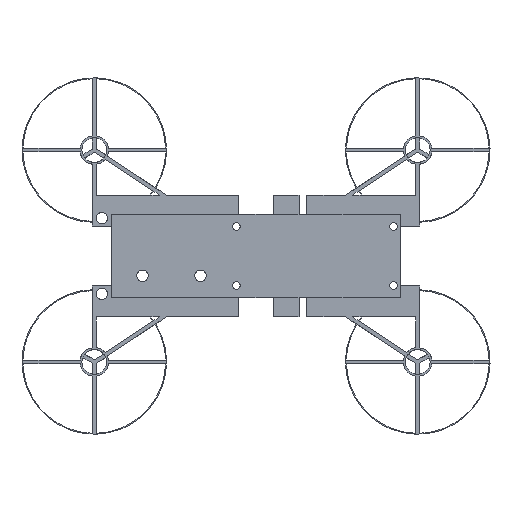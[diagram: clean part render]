
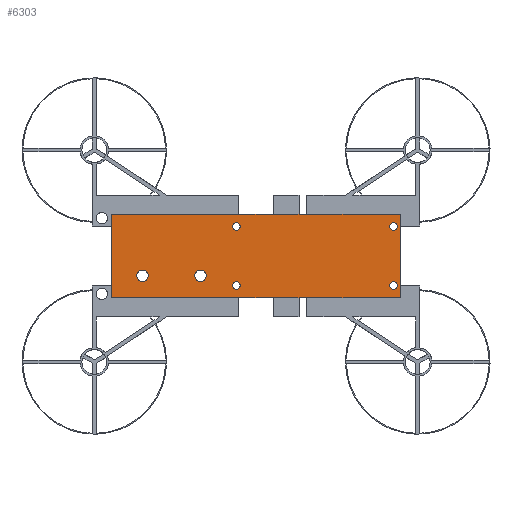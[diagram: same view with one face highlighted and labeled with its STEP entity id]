
A CAD part, top view. The second image highlights one B-rep face of the part: STEP entity #6303.
In plain terms, the highlighted planar face has unit normal (0, 0, 1).
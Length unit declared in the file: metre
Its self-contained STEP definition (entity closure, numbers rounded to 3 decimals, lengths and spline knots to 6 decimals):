
#247=CIRCLE('',#6778,0.0015);
#248=CIRCLE('',#6779,0.0015);
#249=CIRCLE('',#6780,0.001);
#250=CIRCLE('',#6781,0.001);
#251=CIRCLE('',#6782,0.001);
#252=CIRCLE('',#6783,0.001);
#964=ORIENTED_EDGE('',*,*,#2765,.F.);
#965=ORIENTED_EDGE('',*,*,#2766,.F.);
#966=ORIENTED_EDGE('',*,*,#2767,.T.);
#967=ORIENTED_EDGE('',*,*,#2768,.T.);
#968=ORIENTED_EDGE('',*,*,#2769,.T.);
#969=ORIENTED_EDGE('',*,*,#2770,.T.);
#970=ORIENTED_EDGE('',*,*,#2676,.T.);
#971=ORIENTED_EDGE('',*,*,#2684,.T.);
#972=ORIENTED_EDGE('',*,*,#2700,.T.);
#973=ORIENTED_EDGE('',*,*,#2497,.F.);
#974=ORIENTED_EDGE('',*,*,#2771,.F.);
#975=ORIENTED_EDGE('',*,*,#2493,.F.);
#976=ORIENTED_EDGE('',*,*,#2772,.F.);
#977=ORIENTED_EDGE('',*,*,#2698,.F.);
#978=ORIENTED_EDGE('',*,*,#2696,.F.);
#979=ORIENTED_EDGE('',*,*,#2681,.F.);
#980=ORIENTED_EDGE('',*,*,#2664,.F.);
#981=ORIENTED_EDGE('',*,*,#2678,.T.);
#982=ORIENTED_EDGE('',*,*,#2773,.T.);
#983=ORIENTED_EDGE('',*,*,#2402,.T.);
#984=ORIENTED_EDGE('',*,*,#2774,.T.);
#985=ORIENTED_EDGE('',*,*,#2398,.T.);
#2398=EDGE_CURVE('',#3353,#3354,#3939,.T.);
#2402=EDGE_CURVE('',#3357,#3355,#3943,.T.);
#2493=EDGE_CURVE('',#3444,#3446,#4001,.T.);
#2497=EDGE_CURVE('',#3448,#3450,#4005,.T.);
#2664=EDGE_CURVE('',#3571,#3572,#4128,.T.);
#2676=EDGE_CURVE('',#3354,#3575,#4140,.T.);
#2678=EDGE_CURVE('',#3571,#3576,#4142,.T.);
#2681=EDGE_CURVE('',#3572,#3577,#4145,.T.);
#2684=EDGE_CURVE('',#3575,#3579,#4148,.T.);
#2696=EDGE_CURVE('',#3577,#3584,#4160,.T.);
#2698=EDGE_CURVE('',#3584,#3585,#4162,.T.);
#2700=EDGE_CURVE('',#3579,#3450,#4164,.T.);
#2765=EDGE_CURVE('',#3638,#3638,#247,.T.);
#2766=EDGE_CURVE('',#3639,#3639,#248,.T.);
#2767=EDGE_CURVE('',#3640,#3640,#249,.F.);
#2768=EDGE_CURVE('',#3641,#3641,#250,.F.);
#2769=EDGE_CURVE('',#3642,#3642,#251,.F.);
#2770=EDGE_CURVE('',#3643,#3643,#252,.F.);
#2771=EDGE_CURVE('',#3446,#3448,#4198,.T.);
#2772=EDGE_CURVE('',#3585,#3444,#4199,.T.);
#2773=EDGE_CURVE('',#3576,#3357,#4200,.T.);
#2774=EDGE_CURVE('',#3355,#3353,#4201,.T.);
#3353=VERTEX_POINT('',#9267);
#3354=VERTEX_POINT('',#9268);
#3355=VERTEX_POINT('',#9273);
#3357=VERTEX_POINT('',#9276);
#3444=VERTEX_POINT('',#9458);
#3446=VERTEX_POINT('',#9461);
#3448=VERTEX_POINT('',#9467);
#3450=VERTEX_POINT('',#9470);
#3571=VERTEX_POINT('',#9791);
#3572=VERTEX_POINT('',#9793);
#3575=VERTEX_POINT('',#9810);
#3576=VERTEX_POINT('',#9816);
#3577=VERTEX_POINT('',#9823);
#3579=VERTEX_POINT('',#9829);
#3584=VERTEX_POINT('',#9851);
#3585=VERTEX_POINT('',#9855);
#3638=VERTEX_POINT('',#9980);
#3639=VERTEX_POINT('',#9982);
#3640=VERTEX_POINT('',#9984);
#3641=VERTEX_POINT('',#9986);
#3642=VERTEX_POINT('',#9988);
#3643=VERTEX_POINT('',#9990);
#3939=LINE('',#9266,#4611);
#3943=LINE('',#9275,#4615);
#4001=LINE('',#9460,#4673);
#4005=LINE('',#9469,#4677);
#4128=LINE('',#9792,#4800);
#4140=LINE('',#9813,#4812);
#4142=LINE('',#9817,#4814);
#4145=LINE('',#9822,#4817);
#4148=LINE('',#9828,#4820);
#4160=LINE('',#9850,#4832);
#4162=LINE('',#9854,#4834);
#4164=LINE('',#9858,#4836);
#4198=LINE('',#9991,#4870);
#4199=LINE('',#9992,#4871);
#4200=LINE('',#9993,#4872);
#4201=LINE('',#9994,#4873);
#4611=VECTOR('',#7320,1.);
#4615=VECTOR('',#7326,1.);
#4673=VECTOR('',#7460,1.);
#4677=VECTOR('',#7466,1.);
#4800=VECTOR('',#7745,1.);
#4812=VECTOR('',#7767,1.);
#4814=VECTOR('',#7771,1.);
#4817=VECTOR('',#7778,1.);
#4820=VECTOR('',#7783,1.);
#4832=VECTOR('',#7805,1.);
#4834=VECTOR('',#7809,1.);
#4836=VECTOR('',#7813,1.);
#4870=VECTOR('',#7929,1.);
#4871=VECTOR('',#7930,1.);
#4872=VECTOR('',#7931,1.);
#4873=VECTOR('',#7932,1.);
#5333=EDGE_LOOP('',(#964));
#5334=EDGE_LOOP('',(#965));
#5335=EDGE_LOOP('',(#966));
#5336=EDGE_LOOP('',(#967));
#5337=EDGE_LOOP('',(#968));
#5338=EDGE_LOOP('',(#969));
#5339=EDGE_LOOP('',(#970,#971,#972,#973,#974,#975,#976,#977,#978,#979,#980,
#981,#982,#983,#984,#985));
#5727=FACE_BOUND('',#5333,.T.);
#5728=FACE_BOUND('',#5334,.T.);
#5729=FACE_BOUND('',#5335,.T.);
#5730=FACE_BOUND('',#5336,.T.);
#5731=FACE_BOUND('',#5337,.T.);
#5732=FACE_BOUND('',#5338,.T.);
#5733=FACE_BOUND('',#5339,.T.);
#6069=PLANE('',#6777);
#6303=ADVANCED_FACE('',(#5727,#5728,#5729,#5730,#5731,#5732,#5733),#6069,
 .T.);
#6777=AXIS2_PLACEMENT_3D('',#9978,#7915,#7916);
#6778=AXIS2_PLACEMENT_3D('',#9979,#7917,#7918);
#6779=AXIS2_PLACEMENT_3D('',#9981,#7919,#7920);
#6780=AXIS2_PLACEMENT_3D('',#9983,#7921,#7922);
#6781=AXIS2_PLACEMENT_3D('',#9985,#7923,#7924);
#6782=AXIS2_PLACEMENT_3D('',#9987,#7925,#7926);
#6783=AXIS2_PLACEMENT_3D('',#9989,#7927,#7928);
#7320=DIRECTION('',(-1.,0.,0.));
#7326=DIRECTION('',(-1.,0.,0.));
#7460=DIRECTION('',(-1.,0.,0.));
#7466=DIRECTION('',(-1.,0.,0.));
#7745=DIRECTION('',(0.,-1.,0.));
#7767=DIRECTION('',(0.,-1.,0.));
#7771=DIRECTION('',(-1.,0.,0.));
#7778=DIRECTION('',(0.,-1.,0.));
#7783=DIRECTION('',(0.,-1.,0.));
#7805=DIRECTION('',(0.,-1.,0.));
#7809=DIRECTION('',(-1.,0.,0.));
#7813=DIRECTION('',(0.,-1.,0.));
#7915=DIRECTION('',(0.,0.,1.));
#7916=DIRECTION('',(1.,0.,0.));
#7917=DIRECTION('',(0.,0.,1.));
#7918=DIRECTION('',(1.,0.,0.));
#7919=DIRECTION('',(0.,0.,1.));
#7920=DIRECTION('',(1.,0.,0.));
#7921=DIRECTION('',(0.,0.,1.));
#7922=DIRECTION('',(1.,0.,0.));
#7923=DIRECTION('',(0.,0.,1.));
#7924=DIRECTION('',(1.,0.,0.));
#7925=DIRECTION('',(0.,0.,1.));
#7926=DIRECTION('',(1.,0.,0.));
#7927=DIRECTION('',(0.,0.,1.));
#7928=DIRECTION('',(1.,0.,0.));
#7929=DIRECTION('',(-1.,0.,0.));
#7930=DIRECTION('',(-1.,0.,0.));
#7931=DIRECTION('',(-1.,0.,0.));
#7932=DIRECTION('',(-1.,0.,0.));
#9266=CARTESIAN_POINT('',(0.,0.011,0.0005));
#9267=CARTESIAN_POINT('',(-0.004512,0.011,0.0005));
#9268=CARTESIAN_POINT('',(-0.038,0.011,0.0005));
#9273=CARTESIAN_POINT('',(0.004512,0.011,0.0005));
#9275=CARTESIAN_POINT('',(0.,0.011,0.0005));
#9276=CARTESIAN_POINT('',(0.011304,0.011,0.0005));
#9458=CARTESIAN_POINT('',(0.011304,-0.011,0.0005));
#9460=CARTESIAN_POINT('',(0.,-0.011,0.0005));
#9461=CARTESIAN_POINT('',(0.004512,-0.011,0.0005));
#9467=CARTESIAN_POINT('',(-0.004512,-0.011,0.0005));
#9469=CARTESIAN_POINT('',(0.,-0.011,0.0005));
#9470=CARTESIAN_POINT('',(-0.038,-0.011,0.0005));
#9791=CARTESIAN_POINT('',(0.038,0.011,0.0005));
#9792=CARTESIAN_POINT('',(0.038,-0.009414,0.0005));
#9793=CARTESIAN_POINT('',(0.038,0.007827,0.0005));
#9810=CARTESIAN_POINT('',(-0.038,0.007827,0.0005));
#9813=CARTESIAN_POINT('',(-0.038,-0.002965,0.0005));
#9816=CARTESIAN_POINT('',(0.013304,0.011,0.0005));
#9817=CARTESIAN_POINT('',(0.,0.011,0.0005));
#9822=CARTESIAN_POINT('',(0.038,-0.009414,0.0005));
#9823=CARTESIAN_POINT('',(0.038,-0.007827,0.0005));
#9828=CARTESIAN_POINT('',(-0.038,-0.002965,0.0005));
#9829=CARTESIAN_POINT('',(-0.038,-0.007827,0.0005));
#9850=CARTESIAN_POINT('',(0.038,-0.009414,0.0005));
#9851=CARTESIAN_POINT('',(0.038,-0.011,0.0005));
#9854=CARTESIAN_POINT('',(0.,-0.011,0.0005));
#9855=CARTESIAN_POINT('',(0.013304,-0.011,0.0005));
#9858=CARTESIAN_POINT('',(-0.038,-0.002965,0.0005));
#9978=CARTESIAN_POINT('',(0.003137,0.,0.0005));
#9979=CARTESIAN_POINT('',(-0.029808,-0.0052,0.0005));
#9980=CARTESIAN_POINT('',(-0.028308,-0.0052,0.0005));
#9981=CARTESIAN_POINT('',(-0.014568,-0.0052,0.0005));
#9982=CARTESIAN_POINT('',(-0.013068,-0.0052,0.0005));
#9983=CARTESIAN_POINT('',(-0.005152,0.00775,0.0005));
#9984=CARTESIAN_POINT('',(-0.004152,0.00775,0.0005));
#9985=CARTESIAN_POINT('',(-0.005152,-0.00775,0.0005));
#9986=CARTESIAN_POINT('',(-0.004152,-0.00775,0.0005));
#9987=CARTESIAN_POINT('',(0.036148,-0.00775,0.0005));
#9988=CARTESIAN_POINT('',(0.037148,-0.00775,0.0005));
#9989=CARTESIAN_POINT('',(0.036148,0.00775,0.0005));
#9990=CARTESIAN_POINT('',(0.037148,0.00775,0.0005));
#9991=CARTESIAN_POINT('',(0.,-0.011,0.0005));
#9992=CARTESIAN_POINT('',(0.,-0.011,0.0005));
#9993=CARTESIAN_POINT('',(0.,0.011,0.0005));
#9994=CARTESIAN_POINT('',(0.,0.011,0.0005));
